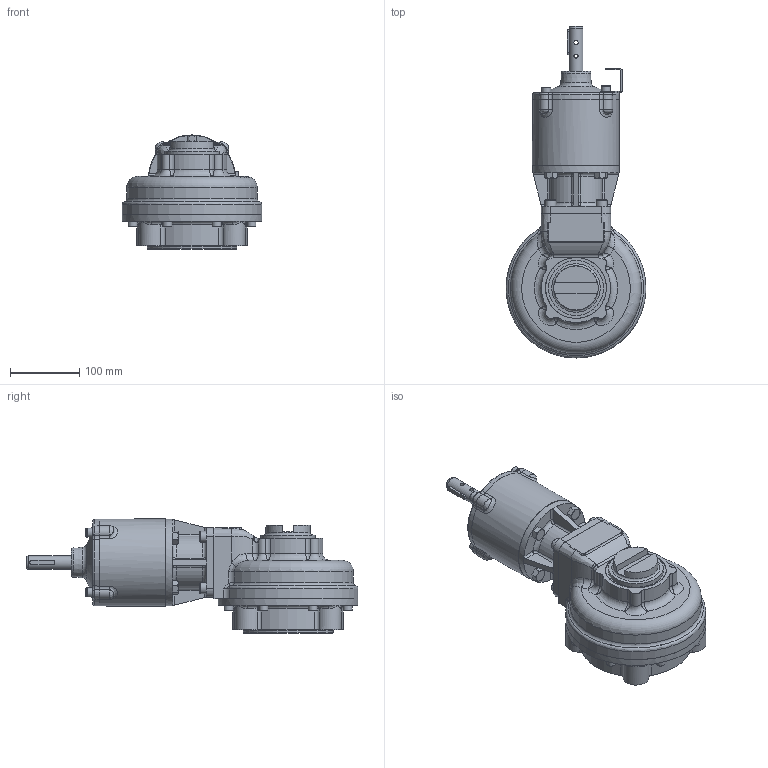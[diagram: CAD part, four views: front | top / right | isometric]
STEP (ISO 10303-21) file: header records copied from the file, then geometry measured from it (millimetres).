
FILE_DESCRIPTION( ( 'Unknown' ), '1' );
FILE_NAME( 'X:/CURRENT/PUB/Hob/HOB-2014/HOB-MPR/HOB-MPR-STP_FILES/PUB-HOB5MPR4-8.4-PAD-F16.stp', 'Unknown', ( 'Unknown' ), ( 'Unknown' ), 'PSStep 16.0.42', 'Unknown', ' ' );
FILE_SCHEMA( ( 'AUTOMOTIVE_DESIGN { 1 0 10303 214 1 1 1 1 }' ) );
Length unit declared in the file: millimetre
Products named in the file (32): 1; 2; 3; 4; 5; 6; 7; 8; 9; 10; 11; 12; 13; 14; 15; 16; 17; 18; trelleborg_trea00200-n7mm_b5c67wtxxcj74kwnwb2box077_01; 19; 20; 21; 22; 23; 24; 25; 26; 27; 28; 29; 30; 31
Bounding box: 202 x 479.52 x 164.88 mm (x, y, z)
Surface area: 658124.9 mm2 (no closed solid volume)
Topology: 0 solids, 2003 shells, 2004 faces, 10022 edges, 9649 vertices
Faces by surface type: cylinder 786, plane 642, cone 314, torus 135, bspline 119, sphere 8
Full cylindrical faces by diameter (mm): 6 x2, 6.647 x8, 6.8 x8, 8 x12, 8.25 x2, 8.376 x8, 8.5 x16, 10 x8, 10.5 x8, 12 x1, 13 x8, 13.27 x4, 16 x4, 17.294 x8, 19 x1, 20 x4, 22 x1, 22.098 x1, 23 x1, 25 x1, 28 x2, 29 x1, 29.583 x1, 30 x4, 35.105 x1, 60.325 x1, 62 x2, 66 x2, 69.85 x2, 69.95 x2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
Entity records: 151424 total; most frequent: CARTESIAN_POINT 62183, DIRECTION 15936, VERTEX_POINT 9528, ORIENTED_EDGE 9502, EDGE_CURVE 9502, AXIS2_PLACEMENT_3D 5960, CIRCLE 4016, LINE 4016
